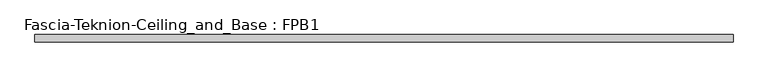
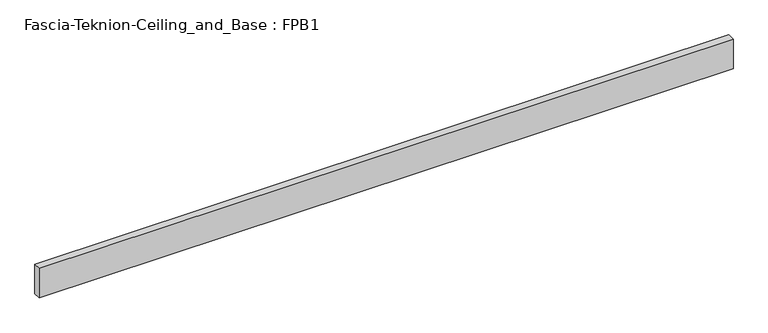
"""IFC4 building model written with IfcOpenShell, lengths in millimetres: proxy geometry, Fascia-Teknion-Ceiling_and_Base : FPB1."""

from ifc_helpers import new_model, si_unit, origin, origin_with_axes, place, context, project, spatial, polyline, outline, extrude, source, transform, mapped, element, save


def fascia_teknion_ceiling_and_base_fpb1_b7746e3f(model_context):
    return source(origin(), model_context, "Body", "SweptSolid", [
        extrude(outline(polyline([(904.2300781, 0.0), (-904.2300781, 0.0), (-904.2300781, 19.05), (904.2300781, 19.05), (904.2300781, 0.0)])), origin_with_axes(), (0.0, 0.0, 1.0), 81.28),
    ])


if __name__ == "__main__":
    model = new_model("IFC4")
    model_context = context("Model", 3, world=origin())
    ifc_project = project(units=[si_unit("LENGTHUNIT", "METRE", prefix="MILLI")], contexts=[model_context])
    site = spatial("IfcSite", under=ifc_project)
    building = spatial("IfcBuilding", under=site)
    placement = place(None, origin())
    fascia_teknion_ceiling_and_base_fpb1_shape = fascia_teknion_ceiling_and_base_fpb1_b7746e3f(model_context)
    element("IfcBuildingElementProxy", 1, Name="Fascia-Teknion-Ceiling_and_Base : FPB1", ObjectType="Fascia-Teknion-Ceiling_and_Base : FPB1", at=placement, inside=building, context=model_context, shape_type="MappedRepresentation", body=[
        mapped(fascia_teknion_ceiling_and_base_fpb1_shape, transform((0.0, 0.0, 0.0), x_axis=(1.0, 0.0, 0.0), y_axis=(0.0, 1.0, 0.0), z_axis=(0.0, 0.0, 1.0))),
    ])
    save(model, "model.ifc")
